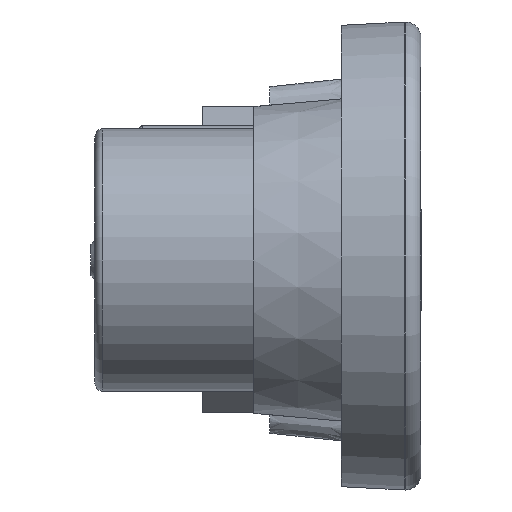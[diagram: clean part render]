
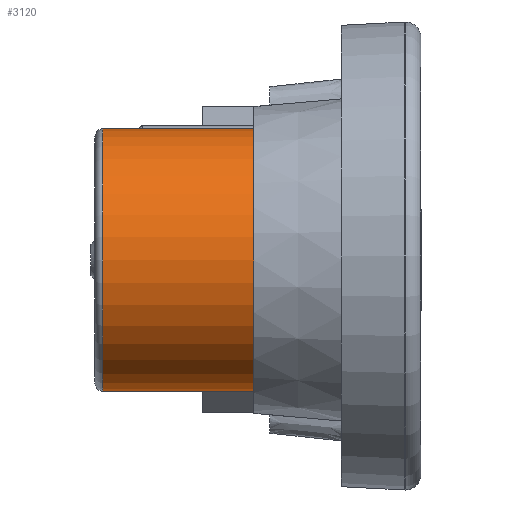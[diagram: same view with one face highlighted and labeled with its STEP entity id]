
A CAD part, left-side view. The second image highlights one B-rep face of the part: STEP entity #3120.
In plain terms, the highlighted cylindrical face has radius 1.65 mm (diameter 3.3 mm), a partial arc.
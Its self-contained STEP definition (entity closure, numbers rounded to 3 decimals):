
#418=CARTESIAN_POINT('',(-7.271,-0.74,
-4.166));
#419=DIRECTION('',(0.,-1.,0.));
#420=DIRECTION('',(0.,0.,1.));
#421=AXIS2_PLACEMENT_3D('',#418,#419,#420);
#925=DIRECTION('',(0.,1.,0.));
#926=VECTOR('',#925,1.9);
#927=CARTESIAN_POINT('',(-7.271,-0.74,
-5.816));
#928=LINE('',#927,#926);
#944=CARTESIAN_POINT('',(-7.271,1.16,-4.166));
#945=DIRECTION('',(0.,1.,0.));
#946=DIRECTION('',(0.,0.,-1.));
#947=AXIS2_PLACEMENT_3D('',#944,#945,#946);
#959=DIRECTION('',(0.,1.,0.));
#960=VECTOR('',#959,1.9);
#961=CARTESIAN_POINT('',(-7.271,-0.74,
-2.516));
#962=LINE('',#961,#960);
#1642=CARTESIAN_POINT('',(-7.271,1.16,
-5.816));
#1643=CARTESIAN_POINT('',(-7.271,1.16,
-2.516));
#1644=VERTEX_POINT('',#1642);
#1645=VERTEX_POINT('',#1643);
#1666=CARTESIAN_POINT('',(-7.271,-0.74,
-2.516));
#1667=VERTEX_POINT('',#1666);
#1682=CARTESIAN_POINT('',(-7.271,-0.74,
-5.816));
#1683=VERTEX_POINT('',#1682);
#3109=CARTESIAN_POINT('',(-7.271,1.26,
-4.166));
#3110=DIRECTION('',(0.,-1.,0.));
#3111=DIRECTION('',(0.,0.,-1.));
#3112=AXIS2_PLACEMENT_3D('',#3109,#3110,#3111);
#3113=CYLINDRICAL_SURFACE('',#3112,1.65);
#3114=ORIENTED_EDGE('',*,*,#3065,.F.);
#3115=ORIENTED_EDGE('',*,*,#2246,.T.);
#3116=ORIENTED_EDGE('',*,*,#3062,.T.);
#3117=ORIENTED_EDGE('',*,*,#3093,.T.);
#3118=EDGE_LOOP('',(#3114,#3115,#3116,#3117));
#3119=FACE_OUTER_BOUND('',#3118,.F.);
#3120=ADVANCED_FACE('',(#3119),#3113,.T.);
#422=CIRCLE('',#421,1.65);
#948=CIRCLE('',#947,1.65);
#2246=EDGE_CURVE('',#1667,#1683,#422,.T.);
#3062=EDGE_CURVE('',#1683,#1644,#928,.T.);
#3065=EDGE_CURVE('',#1667,#1645,#962,.T.);
#3093=EDGE_CURVE('',#1644,#1645,#948,.T.);
